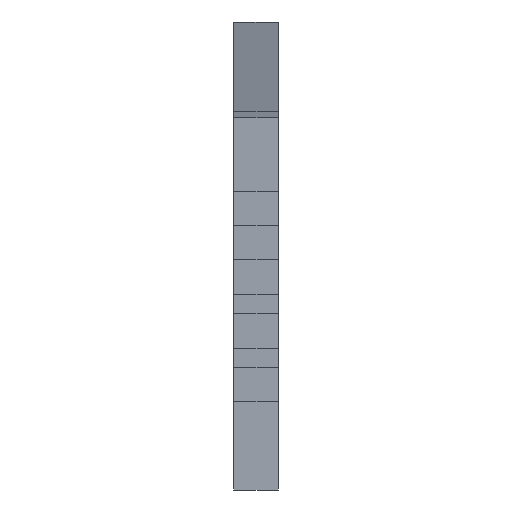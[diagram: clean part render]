
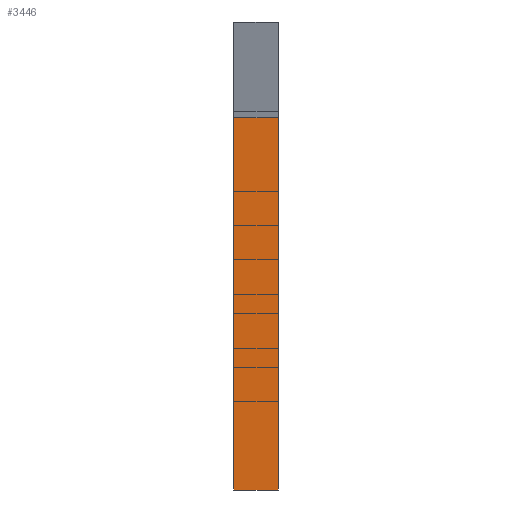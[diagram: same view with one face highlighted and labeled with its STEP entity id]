
A CAD part, left-side view. The second image highlights one B-rep face of the part: STEP entity #3446.
In plain terms, the highlighted planar face has unit normal (-1, 0, -0.028).
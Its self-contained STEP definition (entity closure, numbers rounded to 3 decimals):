
#419=DIRECTION('',(-0.028,0.,1.));
#420=VECTOR('',#419,25.);
#421=CARTESIAN_POINT('',(-81.277,-19.,-87.618));
#422=LINE('',#421,#420);
#857=DIRECTION('',(-0.028,0.,1.));
#858=VECTOR('',#857,25.);
#859=CARTESIAN_POINT('',(-81.277,-16.,-87.618));
#860=LINE('',#859,#858);
#1253=DIRECTION('',(0.,-1.,0.));
#1254=VECTOR('',#1253,3.);
#1255=CARTESIAN_POINT('',(-81.277,-16.,-87.618));
#1256=LINE('',#1255,#1254);
#1257=DIRECTION('',(0.,-1.,0.));
#1258=VECTOR('',#1257,3.);
#1259=CARTESIAN_POINT('',(-81.986,-16.,-62.628));
#1260=LINE('',#1259,#1258);
#1534=CARTESIAN_POINT('',(-81.277,-16.,-87.618));
#1536=VERTEX_POINT('',#1534);
#1537=CARTESIAN_POINT('',(-81.986,-16.,-62.628));
#1538=VERTEX_POINT('',#1537);
#1590=CARTESIAN_POINT('',(-81.277,-19.,-87.618));
#1592=VERTEX_POINT('',#1590);
#1593=CARTESIAN_POINT('',(-81.986,-19.,-62.628));
#1594=VERTEX_POINT('',#1593);
#3434=CARTESIAN_POINT('',(-81.277,-16.,-87.618));
#3435=DIRECTION('',(-1.,0.,-0.028));
#3436=DIRECTION('',(-0.028,0.,1.));
#3437=AXIS2_PLACEMENT_3D('',#3434,#3435,#3436);
#3438=PLANE('',#3437);
#3439=ORIENTED_EDGE('',*,*,#1947,.T.);
#3441=ORIENTED_EDGE('',*,*,#3440,.T.);
#3442=ORIENTED_EDGE('',*,*,#1666,.F.);
#3443=ORIENTED_EDGE('',*,*,#3427,.F.);
#3444=EDGE_LOOP('',(#3439,#3441,#3442,#3443));
#3445=FACE_OUTER_BOUND('',#3444,.F.);
#3446=ADVANCED_FACE('',(#3445),#3438,.T.);
#1666=EDGE_CURVE('',#1592,#1594,#422,.T.);
#1947=EDGE_CURVE('',#1536,#1538,#860,.T.);
#3427=EDGE_CURVE('',#1536,#1592,#1256,.T.);
#3440=EDGE_CURVE('',#1538,#1594,#1260,.T.);
